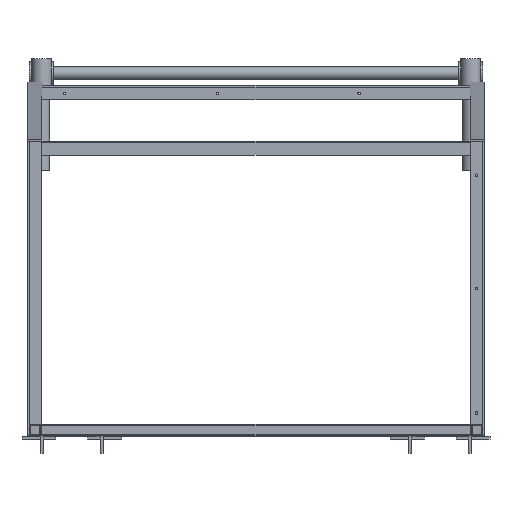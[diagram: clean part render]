
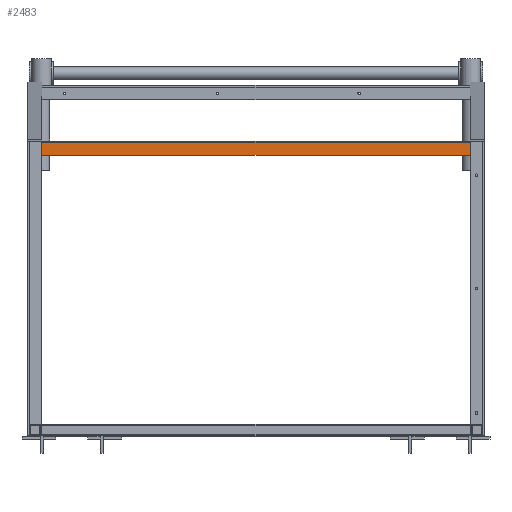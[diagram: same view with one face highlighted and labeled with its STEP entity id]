
A CAD part, top view. The second image highlights one B-rep face of the part: STEP entity #2483.
In plain terms, the highlighted planar face has unit normal (0, 0, 1) as drawn and (0, -1, 0) by its records, which use the part's own axes.
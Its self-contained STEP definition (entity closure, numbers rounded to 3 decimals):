
#456=FACE_OUTER_BOUND('',#616,.T.);
#616=EDGE_LOOP('',(#2172,#2173,#2174,#2175));
#860=LINE('',#4352,#1093);
#869=LINE('',#4370,#1102);
#870=LINE('',#4373,#1103);
#871=LINE('',#4374,#1104);
#1093=VECTOR('',#3607,10.);
#1102=VECTOR('',#3624,10.);
#1103=VECTOR('',#3627,10.);
#1104=VECTOR('',#3628,10.);
#1289=VERTEX_POINT('',#4341);
#1294=VERTEX_POINT('',#4350);
#1299=VERTEX_POINT('',#4368);
#1300=VERTEX_POINT('',#4372);
#1591=EDGE_CURVE('',#1294,#1289,#860,.T.);
#1600=EDGE_CURVE('',#1294,#1299,#869,.T.);
#1601=EDGE_CURVE('',#1300,#1299,#870,.T.);
#1602=EDGE_CURVE('',#1289,#1300,#871,.T.);
#2172=ORIENTED_EDGE('',*,*,#1600,.T.);
#2173=ORIENTED_EDGE('',*,*,#1601,.F.);
#2174=ORIENTED_EDGE('',*,*,#1602,.F.);
#2175=ORIENTED_EDGE('',*,*,#1591,.F.);
#2366=PLANE('',#2999);
#2483=ADVANCED_FACE('',(#456),#2366,.T.);
#2999=AXIS2_PLACEMENT_3D('',#4371,#3625,#3626);
#3607=DIRECTION('',(-1.,0.,0.));
#3624=DIRECTION('',(0.,0.,1.));
#3625=DIRECTION('center_axis',(0.,-1.,0.));
#3626=DIRECTION('ref_axis',(1.,0.,0.));
#3627=DIRECTION('',(1.,0.,0.));
#3628=DIRECTION('',(0.,0.,1.));
#4341=CARTESIAN_POINT('',(-12.5,-12.5,-378.));
#4350=CARTESIAN_POINT('',(12.5,-12.5,-378.));
#4352=CARTESIAN_POINT('',(-12.5,-12.5,-378.));
#4368=CARTESIAN_POINT('',(12.5,-12.5,378.));
#4370=CARTESIAN_POINT('',(12.5,-12.5,0.));
#4371=CARTESIAN_POINT('Origin',(-12.5,-12.5,0.));
#4372=CARTESIAN_POINT('',(-12.5,-12.5,378.));
#4373=CARTESIAN_POINT('',(-12.5,-12.5,378.));
#4374=CARTESIAN_POINT('',(-12.5,-12.5,0.));
